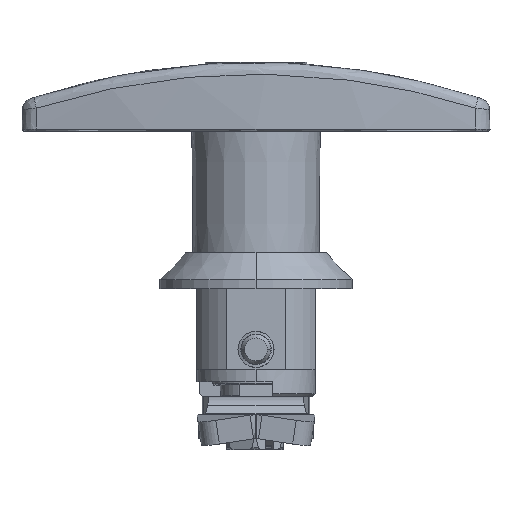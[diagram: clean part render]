
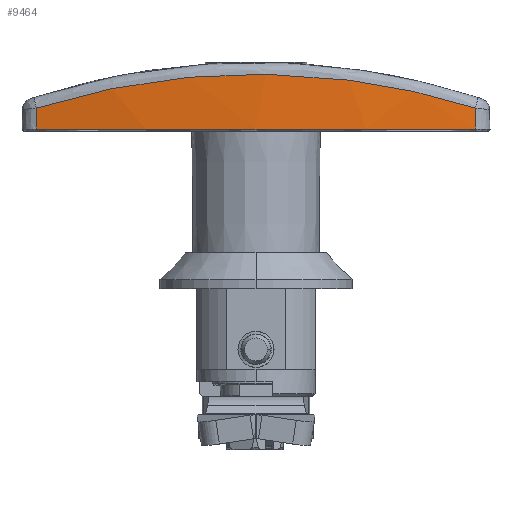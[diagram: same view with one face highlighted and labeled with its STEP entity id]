
A CAD part, left-side view. The second image highlights one B-rep face of the part: STEP entity #9464.
In plain terms, the highlighted conical face has half-angle 1.5 degrees and reference radius 189.882 mm.
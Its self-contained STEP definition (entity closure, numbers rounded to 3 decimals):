
#9027 = VERTEX_POINT ( 'NONE', #13553 ) ;
#9046 = VERTEX_POINT ( 'NONE', #13642 ) ;
#9204 = EDGE_CURVE ( 'NONE', #9046, #9027, #13949, .T. ) ;
#9311 = EDGE_CURVE ( 'NONE', #9027, #9312, #14169, .T. ) ;
#9312 = VERTEX_POINT ( 'NONE', #14165 ) ;
#9325 = EDGE_CURVE ( 'NONE', #9326, #9046, #14241, .T. ) ;
#9326 = VERTEX_POINT ( 'NONE', #14237 ) ;
#9464 = ADVANCED_FACE ( 'NONE', ( #15909 ), #15934, .T. ) ;
#9466 = EDGE_LOOP ( 'NONE', ( #9467, #9468, #9469, #9471 ) ) ;
#9467 = ORIENTED_EDGE ( 'NONE', *, *, #9325, .T. ) ;
#9468 = ORIENTED_EDGE ( 'NONE', *, *, #9204, .T. ) ;
#9469 = ORIENTED_EDGE ( 'NONE', *, *, #9311, .T. ) ;
#9471 = ORIENTED_EDGE ( 'NONE', *, *, #9472, .F. ) ;
#9472 = EDGE_CURVE ( 'NONE', #9326, #9312, #15928, .T. ) ;
#13553 = CARTESIAN_POINT ( 'NONE',  ( 36.576, -7.934, 21.898 ) ) ;
#13642 = CARTESIAN_POINT ( 'NONE',  ( -36.576, -7.934, 21.898 ) ) ;
#13946 = DIRECTION ( 'NONE',  ( 1., 0., 0. ) ) ;
#13947 = DIRECTION ( 'NONE',  ( 0., 0., 1. ) ) ;
#13948 = AXIS2_PLACEMENT_3D ( 'NONE', #13951, #13947, #13946 ) ;
#13949 = CIRCLE ( 'NONE', #13948, 189.882 ) ;
#13951 = CARTESIAN_POINT ( 'NONE',  ( 0., 178.393, 21.898 ) ) ;
#14165 = CARTESIAN_POINT ( 'NONE',  ( 36.558, -7.844, 25.384 ) ) ;
#14166 = DIRECTION ( 'NONE',  ( -0.005, 0.026, 1. ) ) ;
#14167 = VECTOR ( 'NONE', #14166, 1000. ) ;
#14168 = CARTESIAN_POINT ( 'NONE',  ( 36.578, -7.944, 21.5 ) ) ;
#14169 = LINE ( 'NONE', #14168, #14167 ) ;
#14237 = CARTESIAN_POINT ( 'NONE',  ( -36.558, -7.844, 25.384 ) ) ;
#14238 = DIRECTION ( 'NONE',  ( -0.005, -0.026, -1. ) ) ;
#14239 = VECTOR ( 'NONE', #14238, 1000. ) ;
#14240 = CARTESIAN_POINT ( 'NONE',  ( -36.578, -7.944, 21.5 ) ) ;
#14241 = LINE ( 'NONE', #14240, #14239 ) ;
#15909 = FACE_OUTER_BOUND ( 'NONE', #9466, .T. ) ;
#15928 = B_SPLINE_CURVE_WITH_KNOTS ( 'NONE', 3,
 ( #16001, #16000, #15999, #15998, #15997, #15996, #15995, #15994, #15993, #15992, #15991, #15990, #15989, #15988, #15987, #15986, #15985, #15984, #15983, #15982, #15981, #15980, #15979, #15978, #15977, #15976, #15975, #15974, #15973, #15972, #15971, #15970, #15969, #15968, #15967, #15966, #15965, #15964, #15963, #15962, #15961, #15960, #15959 ),
 .UNSPECIFIED., .F., .F.,
 ( 4, 3, 3, 3, 3, 3, 3, 3, 3, 3, 3, 3, 3, 3, 4 ),
 ( 0., 0.125, 0.25, 0.375, 0.438, 0.469, 0.484, 0.5, 0.625, 0.75, 0.875, 0.938, 0.953, 0.969, 1. ),
 .UNSPECIFIED. ) ;
#15931 = DIRECTION ( 'NONE',  ( -1., 0., 0. ) ) ;
#15932 = DIRECTION ( 'NONE',  ( 0., 0., -1. ) ) ;
#15933 = AXIS2_PLACEMENT_3D ( 'NONE', #15935, #15932, #15931 ) ;
#15934 = CONICAL_SURFACE ( 'NONE', #15933, 189.882, 0.026 ) ;
#15935 = CARTESIAN_POINT ( 'NONE',  ( 0., 178.393, 21.898 ) ) ;
#15959 = CARTESIAN_POINT ( 'NONE',  ( 36.558, -7.844, 25.384 ) ) ;
#15960 = CARTESIAN_POINT ( 'NONE',  ( 35.822, -7.982, 25.618 ) ) ;
#15961 = CARTESIAN_POINT ( 'NONE',  ( 35.084, -8.117, 25.845 ) ) ;
#15962 = CARTESIAN_POINT ( 'NONE',  ( 34.342, -8.247, 26.065 ) ) ;
#15963 = CARTESIAN_POINT ( 'NONE',  ( 33.972, -8.312, 26.175 ) ) ;
#15964 = CARTESIAN_POINT ( 'NONE',  ( 33.6, -8.377, 26.283 ) ) ;
#15965 = CARTESIAN_POINT ( 'NONE',  ( 33.228, -8.44, 26.39 ) ) ;
#15966 = CARTESIAN_POINT ( 'NONE',  ( 32.856, -8.503, 26.496 ) ) ;
#15967 = CARTESIAN_POINT ( 'NONE',  ( 32.483, -8.566, 26.601 ) ) ;
#15968 = CARTESIAN_POINT ( 'NONE',  ( 32.11, -8.627, 26.704 ) ) ;
#15969 = CARTESIAN_POINT ( 'NONE',  ( 30.617, -8.873, 27.116 ) ) ;
#15970 = CARTESIAN_POINT ( 'NONE',  ( 29.119, -9.101, 27.499 ) ) ;
#15971 = CARTESIAN_POINT ( 'NONE',  ( 27.616, -9.313, 27.852 ) ) ;
#15972 = CARTESIAN_POINT ( 'NONE',  ( 24.609, -9.737, 28.559 ) ) ;
#15973 = CARTESIAN_POINT ( 'NONE',  ( 21.582, -10.093, 29.148 ) ) ;
#15974 = CARTESIAN_POINT ( 'NONE',  ( 18.535, -10.38, 29.622 ) ) ;
#15975 = CARTESIAN_POINT ( 'NONE',  ( 15.487, -10.666, 30.095 ) ) ;
#15976 = CARTESIAN_POINT ( 'NONE',  ( 12.419, -10.884, 30.452 ) ) ;
#15977 = CARTESIAN_POINT ( 'NONE',  ( 9.33, -11.03, 30.691 ) ) ;
#15978 = CARTESIAN_POINT ( 'NONE',  ( 6.241, -11.176, 30.931 ) ) ;
#15979 = CARTESIAN_POINT ( 'NONE',  ( 3.131, -11.25, 31.052 ) ) ;
#15980 = CARTESIAN_POINT ( 'NONE',  ( 0., -11.25, 31.052 ) ) ;
#15981 = CARTESIAN_POINT ( 'NONE',  ( -0.392, -11.25, 31.052 ) ) ;
#15982 = CARTESIAN_POINT ( 'NONE',  ( -0.784, -11.249, 31.05 ) ) ;
#15983 = CARTESIAN_POINT ( 'NONE',  ( -1.176, -11.246, 31.047 ) ) ;
#15984 = CARTESIAN_POINT ( 'NONE',  ( -1.568, -11.244, 31.043 ) ) ;
#15985 = CARTESIAN_POINT ( 'NONE',  ( -1.96, -11.241, 31.037 ) ) ;
#15986 = CARTESIAN_POINT ( 'NONE',  ( -2.353, -11.236, 31.029 ) ) ;
#15987 = CARTESIAN_POINT ( 'NONE',  ( -3.138, -11.227, 31.014 ) ) ;
#15988 = CARTESIAN_POINT ( 'NONE',  ( -3.922, -11.213, 30.991 ) ) ;
#15989 = CARTESIAN_POINT ( 'NONE',  ( -4.703, -11.194, 30.961 ) ) ;
#15990 = CARTESIAN_POINT ( 'NONE',  ( -6.266, -11.157, 30.9 ) ) ;
#15991 = CARTESIAN_POINT ( 'NONE',  ( -7.823, -11.101, 30.809 ) ) ;
#15992 = CARTESIAN_POINT ( 'NONE',  ( -9.373, -11.028, 30.688 ) ) ;
#15993 = CARTESIAN_POINT ( 'NONE',  ( -12.472, -10.881, 30.447 ) ) ;
#15994 = CARTESIAN_POINT ( 'NONE',  ( -15.545, -10.662, 30.088 ) ) ;
#15995 = CARTESIAN_POINT ( 'NONE',  ( -18.591, -10.374, 29.613 ) ) ;
#15996 = CARTESIAN_POINT ( 'NONE',  ( -21.637, -10.087, 29.138 ) ) ;
#15997 = CARTESIAN_POINT ( 'NONE',  ( -24.658, -9.73, 28.548 ) ) ;
#15998 = CARTESIAN_POINT ( 'NONE',  ( -27.652, -9.308, 27.843 ) ) ;
#15999 = CARTESIAN_POINT ( 'NONE',  ( -30.647, -8.885, 27.139 ) ) ;
#16000 = CARTESIAN_POINT ( 'NONE',  ( -33.615, -8.397, 26.319 ) ) ;
#16001 = CARTESIAN_POINT ( 'NONE',  ( -36.558, -7.844, 25.384 ) ) ;
